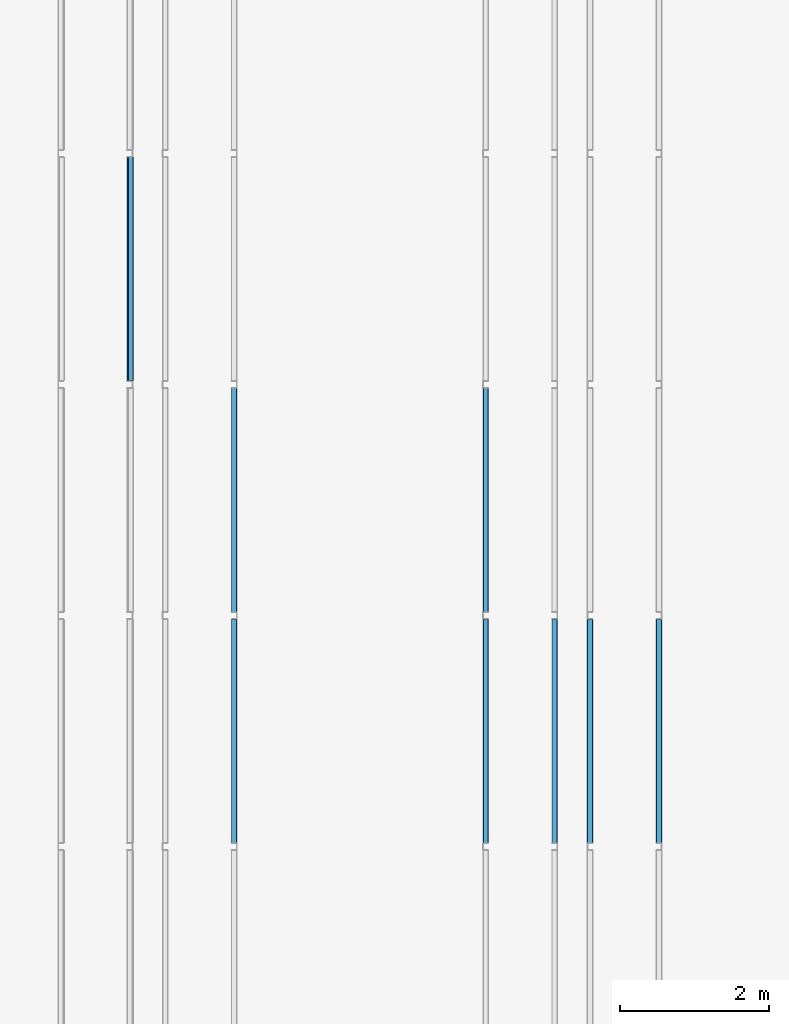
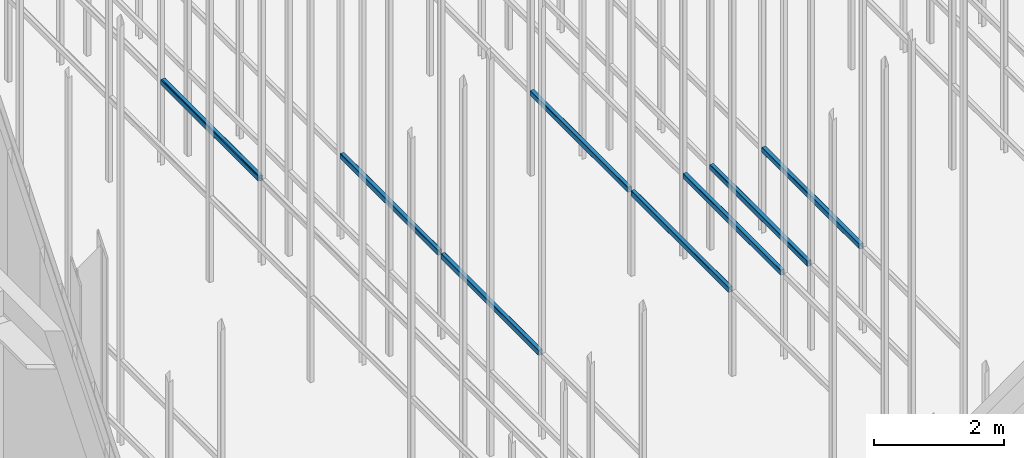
# One storey, part 143 of 302: 9 beams.
"""IFC2X3 building model written with IfcOpenShell, lengths in metres."""

from ifc_helpers import new_model, entity, si_unit, converted_unit, derived_unit, direction, frame, frame_2d, origin, place, context, subcontext, project, spatial, polyline, circle_curve, parameter, trimmed, segment, composite_curve, outline, extrude, material, type_object, element, save


model = new_model("IFC2X3")

# Units and contexts
model_context = context("Model", 3, precision=1e-05, world=origin(), true_north=direction((6.12303176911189e-17, 1.0)))
body_context = subcontext(model_context, "Body", "Model", "MODEL_VIEW")
ifc_project = project(units=[si_unit("LENGTHUNIT", "METRE"), si_unit("AREAUNIT", "SQUARE_METRE"), si_unit("VOLUMEUNIT", "CUBIC_METRE"), converted_unit("PLANEANGLEUNIT", "DEGREE", entity("IfcRatioMeasure", 0.0174532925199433), si_unit("PLANEANGLEUNIT", "RADIAN"), dimensions=[0, 0, 0, 0, 0, 0, 0]), si_unit("MASSUNIT", "GRAM", prefix="KILO"), derived_unit("MASSDENSITYUNIT", [(si_unit("MASSUNIT", "GRAM", prefix="KILO"), 1), (si_unit("LENGTHUNIT", "METRE"), -3)]), derived_unit("MOMENTOFINERTIAUNIT", [(si_unit("LENGTHUNIT", "METRE"), 4)]), si_unit("TIMEUNIT", "SECOND"), si_unit("FREQUENCYUNIT", "HERTZ"), si_unit("THERMODYNAMICTEMPERATUREUNIT", "DEGREE_CELSIUS"), derived_unit("THERMALTRANSMITTANCEUNIT", [(si_unit("MASSUNIT", "GRAM", prefix="KILO"), 1), (si_unit("THERMODYNAMICTEMPERATUREUNIT", "KELVIN"), -1), (si_unit("TIMEUNIT", "SECOND"), -3)]), derived_unit("VOLUMETRICFLOWRATEUNIT", [(si_unit("LENGTHUNIT", "METRE"), 3), (si_unit("TIMEUNIT", "SECOND"), -1)]), si_unit("ELECTRICCURRENTUNIT", "AMPERE"), si_unit("ELECTRICVOLTAGEUNIT", "VOLT"), si_unit("POWERUNIT", "WATT"), si_unit("FORCEUNIT", "NEWTON", prefix="KILO"), si_unit("ILLUMINANCEUNIT", "LUX"), si_unit("LUMINOUSFLUXUNIT", "LUMEN"), si_unit("LUMINOUSINTENSITYUNIT", "CANDELA"), derived_unit("USERDEFINED", [(si_unit("MASSUNIT", "GRAM", prefix="KILO"), -1), (si_unit("LENGTHUNIT", "METRE"), -2), (si_unit("TIMEUNIT", "SECOND"), 3), (si_unit("LUMINOUSFLUXUNIT", "LUMEN"), 1)]), derived_unit("LINEARVELOCITYUNIT", [(si_unit("LENGTHUNIT", "METRE"), 1), (si_unit("TIMEUNIT", "SECOND"), -1)]), si_unit("PRESSUREUNIT", "PASCAL"), derived_unit("USERDEFINED", [(si_unit("LENGTHUNIT", "METRE"), -2), (si_unit("MASSUNIT", "GRAM", prefix="KILO"), 1), (si_unit("TIMEUNIT", "SECOND"), -2)]), derived_unit("LINEARFORCEUNIT", [(si_unit("MASSUNIT", "GRAM", prefix="KILO"), 1), (si_unit("LENGTHUNIT", "METRE"), 1), (si_unit("TIMEUNIT", "SECOND"), -2), (si_unit("LENGTHUNIT", "METRE"), -1)]), derived_unit("PLANARFORCEUNIT", [(si_unit("MASSUNIT", "GRAM", prefix="KILO"), 1), (si_unit("LENGTHUNIT", "METRE"), 1), (si_unit("TIMEUNIT", "SECOND"), -2), (si_unit("LENGTHUNIT", "METRE"), -2)])], contexts=[model_context])

# Site, building, storey
site_placement = place(None, origin())
site = spatial("IfcSite", under=ifc_project, at=site_placement, Name="Default", CompositionType="ELEMENT")
building_placement = place(site_placement, origin())
building = spatial("IfcBuilding", under=site, at=building_placement, CompositionType="ELEMENT")
storey_placement = place(building_placement, frame((0.0, 0.0, -1.3)))
storey = spatial("IfcBuildingStorey", under=building, at=storey_placement, Name="00_EG", CompositionType="ELEMENT", Elevation=-1.3)

# Beams
ifc_material = material(Name="Metall - Baustahl S235 blau")
beam_type = type_object("IfcBeamType", Name="RHS Träger (EN 10219-2):RHS 100 x 75 x 5", PredefinedType="NOTDEFINED")
beam_1_placement = place(storey_placement, frame((-196.415111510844, 30.248088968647, 2.885), z_axis=(0.0, 0.0, 1.0), x_axis=(0.0, 1.0, 0.0)))
element("IfcBeam", 1, at=beam_1_placement, inside=storey, type_object=beam_type, material=ifc_material, Name="RHS Träger (EN 10219-2):RHS 100 x 75 x 5", ObjectType="RHS Träger (EN 10219-2):RHS 100 x 75 x 5", context=body_context, shape_type="SweptSolid", body=[
    extrude(outline(composite_curve([segment(trimmed(circle_curve(frame_2d((-0.0274999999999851, -0.0400000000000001), x_axis=(1.0, 0.0)), 0.01), [parameter(180.0)], [parameter(270.0)], True, "PARAMETER"), True, "CONTINUOUS"), segment(polyline([(-0.0274999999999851, -0.05), (0.0274999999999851, -0.05)]), True, "CONTINUOUS"), segment(trimmed(circle_curve(frame_2d((0.0274999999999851, -0.0400000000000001), x_axis=(1.0, 0.0)), 0.01), [parameter(270.0)], [parameter(5.08888749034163e-14)], True, "PARAMETER"), True, "CONTINUOUS"), segment(polyline([(0.0375000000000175, -0.0399999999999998), (0.0375000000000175, 0.0400000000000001)]), True, "CONTINUOUS"), segment(trimmed(circle_curve(frame_2d((0.0274999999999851, 0.0399999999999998), x_axis=(1.0, 0.0)), 0.01), [parameter(360.0)], [parameter(89.9999999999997)], True, "PARAMETER"), True, "CONTINUOUS"), segment(polyline([(0.0274999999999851, 0.05), (-0.0274999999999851, 0.05)]), True, "CONTINUOUS"), segment(trimmed(circle_curve(frame_2d((-0.0274999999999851, 0.0399999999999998), x_axis=(1.0, 0.0)), 0.01), [parameter(90.0000000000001)], [parameter(180.0)], True, "PARAMETER"), True, "CONTINUOUS"), segment(polyline([(-0.0374999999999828, 0.0400000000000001), (-0.0374999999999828, -0.0399999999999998)]), True, "CONTINUOUS")], self_intersect=False), holes=[composite_curve([segment(polyline([(0.0274999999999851, -0.0450000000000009), (-0.0274999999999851, -0.0450000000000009)]), True, "CONTINUOUS"), segment(trimmed(circle_curve(frame_2d((-0.0274999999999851, -0.0400000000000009), x_axis=(1.0, 0.0)), 0.005), [parameter(180.0)], [parameter(270.0)], True, "PARAMETER"), False, "CONTINUOUS"), segment(polyline([(-0.0325000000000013, -0.0400000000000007), (-0.0325000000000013, 0.0399999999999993)]), True, "CONTINUOUS"), segment(trimmed(circle_curve(frame_2d((-0.0274999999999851, 0.039999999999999), x_axis=(1.0, 0.0)), 0.005), [parameter(90.0000000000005)], [parameter(180.0)], True, "PARAMETER"), False, "CONTINUOUS"), segment(polyline([(-0.0274999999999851, 0.0449999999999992), (0.0274999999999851, 0.0449999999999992)]), True, "CONTINUOUS"), segment(trimmed(circle_curve(frame_2d((0.0274999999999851, 0.039999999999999), x_axis=(1.0, 0.0)), 0.005), [parameter(0.0)], [parameter(90.0000000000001)], True, "PARAMETER"), False, "CONTINUOUS"), segment(polyline([(0.0325000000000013, 0.0399999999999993), (0.0325000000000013, -0.0400000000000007)]), True, "CONTINUOUS"), segment(trimmed(circle_curve(frame_2d((0.0274999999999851, -0.0400000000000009), x_axis=(1.0, 0.0)), 0.005), [parameter(270.0)], [parameter(4.07110999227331e-13)], True, "PARAMETER"), False, "CONTINUOUS")], self_intersect=False)]), frame((9.99999999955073e-05, 0.0375000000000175, -0.0500000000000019), z_axis=(1.0, 0.0, 0.0), x_axis=(0.0, -1.0, 0.0)), (0.0, 0.0, 1.0), 2.9998),
])
beam_2_placement = place(storey_placement, frame((-195.565111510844, 30.248088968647, 2.885), z_axis=(0.0, 0.0, 1.0), x_axis=(0.0, 1.0, 0.0)))
element("IfcBeam", 2, at=beam_2_placement, inside=storey, type_object=beam_type, material=ifc_material, Name="RHS Träger (EN 10219-2):RHS 100 x 75 x 5", ObjectType="RHS Träger (EN 10219-2):RHS 100 x 75 x 5", context=body_context, shape_type="SweptSolid", body=[
    extrude(outline(composite_curve([segment(polyline([(-0.0399999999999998, -0.0374999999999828), (0.0400000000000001, -0.0374999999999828)]), True, "CONTINUOUS"), segment(trimmed(circle_curve(frame_2d((0.0399999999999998, -0.0274999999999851), x_axis=(0.0, 1.0)), 0.01), [parameter(180.0)], [parameter(270.0)], True, "PARAMETER"), True, "CONTINUOUS"), segment(polyline([(0.05, -0.0274999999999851), (0.05, 0.0274999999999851)]), True, "CONTINUOUS"), segment(trimmed(circle_curve(frame_2d((0.0399999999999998, 0.0274999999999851), x_axis=(0.0, 1.0)), 0.01), [parameter(270.0)], [parameter(4.07110999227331e-13)], True, "PARAMETER"), True, "CONTINUOUS"), segment(polyline([(0.0400000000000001, 0.0375000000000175), (-0.0399999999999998, 0.0375000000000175)]), True, "CONTINUOUS"), segment(trimmed(circle_curve(frame_2d((-0.0400000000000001, 0.0274999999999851), x_axis=(0.0, 1.0)), 0.01), [parameter(360.0)], [parameter(90.0000000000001)], True, "PARAMETER"), True, "CONTINUOUS"), segment(polyline([(-0.05, 0.0274999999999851), (-0.05, -0.0274999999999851)]), True, "CONTINUOUS"), segment(trimmed(circle_curve(frame_2d((-0.0400000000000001, -0.0274999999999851), x_axis=(0.0, 1.0)), 0.01), [parameter(90.0000000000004)], [parameter(180.0)], True, "PARAMETER"), True, "CONTINUOUS")], self_intersect=False), holes=[composite_curve([segment(trimmed(circle_curve(frame_2d((-0.0400000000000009, 0.0274999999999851), x_axis=(0.0, 1.0)), 0.005), [parameter(360.0)], [parameter(89.9999999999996)], True, "PARAMETER"), False, "CONTINUOUS"), segment(polyline([(-0.0400000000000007, 0.0325000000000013), (0.0399999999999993, 0.0325000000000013)]), True, "CONTINUOUS"), segment(trimmed(circle_curve(frame_2d((0.039999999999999, 0.0274999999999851), x_axis=(0.0, 1.0)), 0.005), [parameter(270.0)], [parameter(0.0)], True, "PARAMETER"), False, "CONTINUOUS"), segment(polyline([(0.0449999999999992, 0.0274999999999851), (0.0449999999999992, -0.0274999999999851)]), True, "CONTINUOUS"), segment(trimmed(circle_curve(frame_2d((0.039999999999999, -0.0274999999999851), x_axis=(0.0, 1.0)), 0.005), [parameter(180.0)], [parameter(269.999999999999)], True, "PARAMETER"), False, "CONTINUOUS"), segment(polyline([(0.0399999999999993, -0.0325000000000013), (-0.0400000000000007, -0.0325000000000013)]), True, "CONTINUOUS"), segment(trimmed(circle_curve(frame_2d((-0.0400000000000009, -0.0274999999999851), x_axis=(0.0, 1.0)), 0.005), [parameter(90.0000000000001)], [parameter(180.0)], True, "PARAMETER"), False, "CONTINUOUS"), segment(polyline([(-0.0450000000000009, -0.0274999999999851), (-0.0450000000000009, 0.0274999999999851)]), True, "CONTINUOUS")], self_intersect=False)]), frame((9.99999999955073e-05, -0.0375000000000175, -0.0500000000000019), z_axis=(1.0, 0.0, 0.0), x_axis=(0.0, 0.0, -1.0)), (0.0, 0.0, 1.0), 2.9998),
])
beam_3_placement = place(storey_placement, frame((-195.015111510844, 30.248088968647, 2.885), z_axis=(0.0, 0.0, 1.0), x_axis=(0.0, 1.0, 0.0)))
element("IfcBeam", 3, at=beam_3_placement, inside=storey, type_object=beam_type, material=ifc_material, Name="RHS Träger (EN 10219-2):RHS 100 x 75 x 5", ObjectType="RHS Träger (EN 10219-2):RHS 100 x 75 x 5", context=body_context, shape_type="SweptSolid", body=[
    extrude(outline(composite_curve([segment(trimmed(circle_curve(frame_2d((-0.0275000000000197, -0.0400000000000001), x_axis=(1.0, 0.0)), 0.01), [parameter(180.0)], [parameter(270.0)], True, "PARAMETER"), True, "CONTINUOUS"), segment(polyline([(-0.0275000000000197, -0.05), (0.0274999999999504, -0.05)]), True, "CONTINUOUS"), segment(trimmed(circle_curve(frame_2d((0.0274999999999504, -0.0400000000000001), x_axis=(1.0, 0.0)), 0.01), [parameter(270.0)], [parameter(5.08888749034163e-14)], True, "PARAMETER"), True, "CONTINUOUS"), segment(polyline([(0.0374999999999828, -0.0399999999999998), (0.0374999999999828, 0.0400000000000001)]), True, "CONTINUOUS"), segment(trimmed(circle_curve(frame_2d((0.0274999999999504, 0.0399999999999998), x_axis=(1.0, 0.0)), 0.01), [parameter(360.0)], [parameter(89.9999999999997)], True, "PARAMETER"), True, "CONTINUOUS"), segment(polyline([(0.0274999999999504, 0.05), (-0.0275000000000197, 0.05)]), True, "CONTINUOUS"), segment(trimmed(circle_curve(frame_2d((-0.0275000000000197, 0.0399999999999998), x_axis=(1.0, 0.0)), 0.01), [parameter(90.0000000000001)], [parameter(180.0)], True, "PARAMETER"), True, "CONTINUOUS"), segment(polyline([(-0.0375000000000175, 0.0400000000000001), (-0.0375000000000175, -0.0399999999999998)]), True, "CONTINUOUS")], self_intersect=False), holes=[composite_curve([segment(polyline([(0.0274999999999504, -0.0450000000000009), (-0.0275000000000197, -0.0450000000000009)]), True, "CONTINUOUS"), segment(trimmed(circle_curve(frame_2d((-0.0275000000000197, -0.0400000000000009), x_axis=(1.0, 0.0)), 0.005), [parameter(180.0)], [parameter(270.0)], True, "PARAMETER"), False, "CONTINUOUS"), segment(polyline([(-0.0325000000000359, -0.0400000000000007), (-0.0325000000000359, 0.0399999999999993)]), True, "CONTINUOUS"), segment(trimmed(circle_curve(frame_2d((-0.0275000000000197, 0.039999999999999), x_axis=(1.0, 0.0)), 0.005), [parameter(90.0000000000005)], [parameter(180.0)], True, "PARAMETER"), False, "CONTINUOUS"), segment(polyline([(-0.0275000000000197, 0.0449999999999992), (0.0274999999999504, 0.0449999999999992)]), True, "CONTINUOUS"), segment(trimmed(circle_curve(frame_2d((0.0274999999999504, 0.039999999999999), x_axis=(1.0, 0.0)), 0.005), [parameter(0.0)], [parameter(90.0000000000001)], True, "PARAMETER"), False, "CONTINUOUS"), segment(polyline([(0.0324999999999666, 0.0399999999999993), (0.0324999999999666, -0.0400000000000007)]), True, "CONTINUOUS"), segment(trimmed(circle_curve(frame_2d((0.0274999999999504, -0.0400000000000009), x_axis=(1.0, 0.0)), 0.005), [parameter(270.0)], [parameter(4.07110999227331e-13)], True, "PARAMETER"), False, "CONTINUOUS")], self_intersect=False)]), frame((9.99999999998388e-05, 0.0374999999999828, -0.0500000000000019), z_axis=(1.0, 0.0, 0.0), x_axis=(0.0, -1.0, 0.0)), (0.0, 0.0, 1.0), 2.9998),
])
beam_4_placement = place(storey_placement, frame((-194.165111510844, 30.248088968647, 2.885), z_axis=(0.0, 0.0, 1.0), x_axis=(0.0, 1.0, 0.0)))
element("IfcBeam", 4, at=beam_4_placement, inside=storey, type_object=beam_type, material=ifc_material, Name="RHS Träger (EN 10219-2):RHS 100 x 75 x 5", ObjectType="RHS Träger (EN 10219-2):RHS 100 x 75 x 5", context=body_context, shape_type="SweptSolid", body=[
    extrude(outline(composite_curve([segment(polyline([(-0.0399999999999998, -0.0374999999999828), (0.0400000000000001, -0.0374999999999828)]), True, "CONTINUOUS"), segment(trimmed(circle_curve(frame_2d((0.0399999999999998, -0.0274999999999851), x_axis=(0.0, 1.0)), 0.01), [parameter(180.0)], [parameter(270.0)], True, "PARAMETER"), True, "CONTINUOUS"), segment(polyline([(0.05, -0.0274999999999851), (0.05, 0.0274999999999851)]), True, "CONTINUOUS"), segment(trimmed(circle_curve(frame_2d((0.0399999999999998, 0.0274999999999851), x_axis=(0.0, 1.0)), 0.01), [parameter(270.0)], [parameter(4.07110999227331e-13)], True, "PARAMETER"), True, "CONTINUOUS"), segment(polyline([(0.0400000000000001, 0.0375000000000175), (-0.0399999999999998, 0.0375000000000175)]), True, "CONTINUOUS"), segment(trimmed(circle_curve(frame_2d((-0.0400000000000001, 0.0274999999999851), x_axis=(0.0, 1.0)), 0.01), [parameter(360.0)], [parameter(90.0000000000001)], True, "PARAMETER"), True, "CONTINUOUS"), segment(polyline([(-0.05, 0.0274999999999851), (-0.05, -0.0274999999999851)]), True, "CONTINUOUS"), segment(trimmed(circle_curve(frame_2d((-0.0400000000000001, -0.0274999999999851), x_axis=(0.0, 1.0)), 0.01), [parameter(90.0000000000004)], [parameter(180.0)], True, "PARAMETER"), True, "CONTINUOUS")], self_intersect=False), holes=[composite_curve([segment(trimmed(circle_curve(frame_2d((-0.0400000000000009, 0.0274999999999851), x_axis=(0.0, 1.0)), 0.005), [parameter(360.0)], [parameter(89.9999999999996)], True, "PARAMETER"), False, "CONTINUOUS"), segment(polyline([(-0.0400000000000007, 0.0325000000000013), (0.0399999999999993, 0.0325000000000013)]), True, "CONTINUOUS"), segment(trimmed(circle_curve(frame_2d((0.039999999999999, 0.0274999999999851), x_axis=(0.0, 1.0)), 0.005), [parameter(270.0)], [parameter(0.0)], True, "PARAMETER"), False, "CONTINUOUS"), segment(polyline([(0.0449999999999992, 0.0274999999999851), (0.0449999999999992, -0.0274999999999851)]), True, "CONTINUOUS"), segment(trimmed(circle_curve(frame_2d((0.039999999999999, -0.0274999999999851), x_axis=(0.0, 1.0)), 0.005), [parameter(180.0)], [parameter(269.999999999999)], True, "PARAMETER"), False, "CONTINUOUS"), segment(polyline([(0.0399999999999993, -0.0325000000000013), (-0.0400000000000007, -0.0325000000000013)]), True, "CONTINUOUS"), segment(trimmed(circle_curve(frame_2d((-0.0400000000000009, -0.0274999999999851), x_axis=(0.0, 1.0)), 0.005), [parameter(90.0000000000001)], [parameter(180.0)], True, "PARAMETER"), False, "CONTINUOUS"), segment(polyline([(-0.0450000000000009, -0.0274999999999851), (-0.0450000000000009, 0.0274999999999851)]), True, "CONTINUOUS")], self_intersect=False)]), frame((9.99999999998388e-05, -0.0375000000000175, -0.0500000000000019), z_axis=(1.0, 0.0, 0.0), x_axis=(0.0, 0.0, -1.0)), (0.0, 0.0, 1.0), 2.9998),
])
beam_5_placement = place(storey_placement, frame((-199.865111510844, 30.248088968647, 2.885), z_axis=(0.0, 0.0, 1.0), x_axis=(0.0, 1.0, 0.0)))
element("IfcBeam", 5, at=beam_5_placement, inside=storey, type_object=beam_type, material=ifc_material, Name="RHS Träger (EN 10219-2):RHS 100 x 75 x 5", ObjectType="RHS Träger (EN 10219-2):RHS 100 x 75 x 5", context=body_context, shape_type="SweptSolid", body=[
    extrude(outline(composite_curve([segment(polyline([(-0.0399999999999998, -0.0374999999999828), (0.0400000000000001, -0.0374999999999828)]), True, "CONTINUOUS"), segment(trimmed(circle_curve(frame_2d((0.0399999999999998, -0.0274999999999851), x_axis=(0.0, 1.0)), 0.01), [parameter(180.0)], [parameter(270.0)], True, "PARAMETER"), True, "CONTINUOUS"), segment(polyline([(0.05, -0.0274999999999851), (0.05, 0.0274999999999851)]), True, "CONTINUOUS"), segment(trimmed(circle_curve(frame_2d((0.0399999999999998, 0.0274999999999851), x_axis=(0.0, 1.0)), 0.01), [parameter(270.0)], [parameter(4.07110999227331e-13)], True, "PARAMETER"), True, "CONTINUOUS"), segment(polyline([(0.0400000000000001, 0.0375000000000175), (-0.0399999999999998, 0.0375000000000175)]), True, "CONTINUOUS"), segment(trimmed(circle_curve(frame_2d((-0.0400000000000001, 0.0274999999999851), x_axis=(0.0, 1.0)), 0.01), [parameter(360.0)], [parameter(90.0000000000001)], True, "PARAMETER"), True, "CONTINUOUS"), segment(polyline([(-0.05, 0.0274999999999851), (-0.05, -0.0274999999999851)]), True, "CONTINUOUS"), segment(trimmed(circle_curve(frame_2d((-0.0400000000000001, -0.0274999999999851), x_axis=(0.0, 1.0)), 0.01), [parameter(90.0000000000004)], [parameter(180.0)], True, "PARAMETER"), True, "CONTINUOUS")], self_intersect=False), holes=[composite_curve([segment(trimmed(circle_curve(frame_2d((-0.0400000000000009, 0.0274999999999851), x_axis=(0.0, 1.0)), 0.005), [parameter(360.0)], [parameter(89.9999999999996)], True, "PARAMETER"), False, "CONTINUOUS"), segment(polyline([(-0.0400000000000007, 0.0325000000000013), (0.0399999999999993, 0.0325000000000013)]), True, "CONTINUOUS"), segment(trimmed(circle_curve(frame_2d((0.039999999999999, 0.0274999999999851), x_axis=(0.0, 1.0)), 0.005), [parameter(270.0)], [parameter(0.0)], True, "PARAMETER"), False, "CONTINUOUS"), segment(polyline([(0.0449999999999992, 0.0274999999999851), (0.0449999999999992, -0.0274999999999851)]), True, "CONTINUOUS"), segment(trimmed(circle_curve(frame_2d((0.039999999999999, -0.0274999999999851), x_axis=(0.0, 1.0)), 0.005), [parameter(180.0)], [parameter(269.999999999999)], True, "PARAMETER"), False, "CONTINUOUS"), segment(polyline([(0.0399999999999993, -0.0325000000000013), (-0.0400000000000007, -0.0325000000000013)]), True, "CONTINUOUS"), segment(trimmed(circle_curve(frame_2d((-0.0400000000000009, -0.0274999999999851), x_axis=(0.0, 1.0)), 0.005), [parameter(90.0000000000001)], [parameter(180.0)], True, "PARAMETER"), False, "CONTINUOUS"), segment(polyline([(-0.0450000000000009, -0.0274999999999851), (-0.0450000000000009, 0.0274999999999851)]), True, "CONTINUOUS")], self_intersect=False)]), frame((0.00010000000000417, -0.0375000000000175, -0.0500000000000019), z_axis=(1.0, 0.0, 0.0), x_axis=(0.0, 0.0, -1.0)), (0.0, 0.0, 1.0), 2.9998),
])
beam_6_placement = place(storey_placement, frame((-196.415111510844, 33.348088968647, 2.885), z_axis=(0.0, 0.0, 1.0), x_axis=(0.0, 1.0, 0.0)))
element("IfcBeam", 6, at=beam_6_placement, inside=storey, type_object=beam_type, material=ifc_material, Name="RHS Träger (EN 10219-2):RHS 100 x 75 x 5", ObjectType="RHS Träger (EN 10219-2):RHS 100 x 75 x 5", context=body_context, shape_type="SweptSolid", body=[
    extrude(outline(composite_curve([segment(trimmed(circle_curve(frame_2d((-0.0274999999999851, -0.0400000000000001), x_axis=(1.0, 0.0)), 0.01), [parameter(180.0)], [parameter(270.0)], True, "PARAMETER"), True, "CONTINUOUS"), segment(polyline([(-0.0274999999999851, -0.05), (0.0274999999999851, -0.05)]), True, "CONTINUOUS"), segment(trimmed(circle_curve(frame_2d((0.0274999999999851, -0.0400000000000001), x_axis=(1.0, 0.0)), 0.01), [parameter(270.0)], [parameter(5.08888749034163e-14)], True, "PARAMETER"), True, "CONTINUOUS"), segment(polyline([(0.0375000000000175, -0.0399999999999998), (0.0375000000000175, 0.0400000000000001)]), True, "CONTINUOUS"), segment(trimmed(circle_curve(frame_2d((0.0274999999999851, 0.0399999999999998), x_axis=(1.0, 0.0)), 0.01), [parameter(360.0)], [parameter(89.9999999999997)], True, "PARAMETER"), True, "CONTINUOUS"), segment(polyline([(0.0274999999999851, 0.05), (-0.0274999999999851, 0.05)]), True, "CONTINUOUS"), segment(trimmed(circle_curve(frame_2d((-0.0274999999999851, 0.0399999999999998), x_axis=(1.0, 0.0)), 0.01), [parameter(90.0000000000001)], [parameter(180.0)], True, "PARAMETER"), True, "CONTINUOUS"), segment(polyline([(-0.0374999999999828, 0.0400000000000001), (-0.0374999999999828, -0.0399999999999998)]), True, "CONTINUOUS")], self_intersect=False), holes=[composite_curve([segment(polyline([(0.0274999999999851, -0.0450000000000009), (-0.0274999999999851, -0.0450000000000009)]), True, "CONTINUOUS"), segment(trimmed(circle_curve(frame_2d((-0.0274999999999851, -0.0400000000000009), x_axis=(1.0, 0.0)), 0.005), [parameter(180.0)], [parameter(270.0)], True, "PARAMETER"), False, "CONTINUOUS"), segment(polyline([(-0.0325000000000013, -0.0400000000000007), (-0.0325000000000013, 0.0399999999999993)]), True, "CONTINUOUS"), segment(trimmed(circle_curve(frame_2d((-0.0274999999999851, 0.039999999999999), x_axis=(1.0, 0.0)), 0.005), [parameter(90.0000000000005)], [parameter(180.0)], True, "PARAMETER"), False, "CONTINUOUS"), segment(polyline([(-0.0274999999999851, 0.0449999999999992), (0.0274999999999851, 0.0449999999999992)]), True, "CONTINUOUS"), segment(trimmed(circle_curve(frame_2d((0.0274999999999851, 0.039999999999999), x_axis=(1.0, 0.0)), 0.005), [parameter(0.0)], [parameter(90.0000000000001)], True, "PARAMETER"), False, "CONTINUOUS"), segment(polyline([(0.0325000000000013, 0.0399999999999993), (0.0325000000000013, -0.0400000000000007)]), True, "CONTINUOUS"), segment(trimmed(circle_curve(frame_2d((0.0274999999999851, -0.0400000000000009), x_axis=(1.0, 0.0)), 0.005), [parameter(270.0)], [parameter(4.07110999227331e-13)], True, "PARAMETER"), False, "CONTINUOUS")], self_intersect=False)]), frame((0.000100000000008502, 0.0375000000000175, -0.0500000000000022), z_axis=(1.0, 0.0, 0.0), x_axis=(0.0, -1.0, 0.0)), (0.0, 0.0, 1.0), 2.9998),
])
beam_7_placement = place(storey_placement, frame((-199.865111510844, 33.348088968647, 2.885), z_axis=(0.0, 0.0, 1.0), x_axis=(0.0, 1.0, 0.0)))
element("IfcBeam", 7, at=beam_7_placement, inside=storey, type_object=beam_type, material=ifc_material, Name="RHS Träger (EN 10219-2):RHS 100 x 75 x 5", ObjectType="RHS Träger (EN 10219-2):RHS 100 x 75 x 5", context=body_context, shape_type="SweptSolid", body=[
    extrude(outline(composite_curve([segment(polyline([(-0.0399999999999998, -0.0374999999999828), (0.0400000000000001, -0.0374999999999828)]), True, "CONTINUOUS"), segment(trimmed(circle_curve(frame_2d((0.0399999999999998, -0.0274999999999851), x_axis=(0.0, 1.0)), 0.01), [parameter(180.0)], [parameter(270.0)], True, "PARAMETER"), True, "CONTINUOUS"), segment(polyline([(0.05, -0.0274999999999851), (0.05, 0.0274999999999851)]), True, "CONTINUOUS"), segment(trimmed(circle_curve(frame_2d((0.0399999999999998, 0.0274999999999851), x_axis=(0.0, 1.0)), 0.01), [parameter(270.0)], [parameter(4.07110999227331e-13)], True, "PARAMETER"), True, "CONTINUOUS"), segment(polyline([(0.0400000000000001, 0.0375000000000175), (-0.0399999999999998, 0.0375000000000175)]), True, "CONTINUOUS"), segment(trimmed(circle_curve(frame_2d((-0.0400000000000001, 0.0274999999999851), x_axis=(0.0, 1.0)), 0.01), [parameter(360.0)], [parameter(90.0000000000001)], True, "PARAMETER"), True, "CONTINUOUS"), segment(polyline([(-0.05, 0.0274999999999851), (-0.05, -0.0274999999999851)]), True, "CONTINUOUS"), segment(trimmed(circle_curve(frame_2d((-0.0400000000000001, -0.0274999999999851), x_axis=(0.0, 1.0)), 0.01), [parameter(90.0000000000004)], [parameter(180.0)], True, "PARAMETER"), True, "CONTINUOUS")], self_intersect=False), holes=[composite_curve([segment(trimmed(circle_curve(frame_2d((-0.0400000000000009, 0.0274999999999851), x_axis=(0.0, 1.0)), 0.005), [parameter(360.0)], [parameter(89.9999999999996)], True, "PARAMETER"), False, "CONTINUOUS"), segment(polyline([(-0.0400000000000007, 0.0325000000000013), (0.0399999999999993, 0.0325000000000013)]), True, "CONTINUOUS"), segment(trimmed(circle_curve(frame_2d((0.039999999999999, 0.0274999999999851), x_axis=(0.0, 1.0)), 0.005), [parameter(270.0)], [parameter(0.0)], True, "PARAMETER"), False, "CONTINUOUS"), segment(polyline([(0.0449999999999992, 0.0274999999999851), (0.0449999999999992, -0.0274999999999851)]), True, "CONTINUOUS"), segment(trimmed(circle_curve(frame_2d((0.039999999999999, -0.0274999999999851), x_axis=(0.0, 1.0)), 0.005), [parameter(180.0)], [parameter(269.999999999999)], True, "PARAMETER"), False, "CONTINUOUS"), segment(polyline([(0.0399999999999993, -0.0325000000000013), (-0.0400000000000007, -0.0325000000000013)]), True, "CONTINUOUS"), segment(trimmed(circle_curve(frame_2d((-0.0400000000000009, -0.0274999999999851), x_axis=(0.0, 1.0)), 0.005), [parameter(90.0000000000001)], [parameter(180.0)], True, "PARAMETER"), False, "CONTINUOUS"), segment(polyline([(-0.0450000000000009, -0.0274999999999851), (-0.0450000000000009, 0.0274999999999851)]), True, "CONTINUOUS")], self_intersect=False)]), frame((9.99999999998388e-05, -0.0375000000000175, -0.0500000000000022), z_axis=(1.0, 0.0, 0.0), x_axis=(0.0, 0.0, -1.0)), (0.0, 0.0, 1.0), 2.9998),
])
beam_8_placement = place(storey_placement, frame((-201.255111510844, 36.448088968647, 2.885), z_axis=(0.0, 0.0, 1.0), x_axis=(0.0, 1.0, 0.0)))
element("IfcBeam", 8, at=beam_8_placement, inside=storey, type_object=beam_type, material=ifc_material, Name="RHS Träger (EN 10219-2):RHS 100 x 75 x 5", ObjectType="RHS Träger (EN 10219-2):RHS 100 x 75 x 5", context=body_context, shape_type="SweptSolid", body=[
    extrude(outline(composite_curve([segment(polyline([(-0.0399999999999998, -0.0374999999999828), (0.0400000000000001, -0.0374999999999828)]), True, "CONTINUOUS"), segment(trimmed(circle_curve(frame_2d((0.0399999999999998, -0.0274999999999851), x_axis=(0.0, 1.0)), 0.01), [parameter(180.0)], [parameter(270.0)], True, "PARAMETER"), True, "CONTINUOUS"), segment(polyline([(0.05, -0.0274999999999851), (0.05, 0.0274999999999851)]), True, "CONTINUOUS"), segment(trimmed(circle_curve(frame_2d((0.0399999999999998, 0.0274999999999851), x_axis=(0.0, 1.0)), 0.01), [parameter(270.0)], [parameter(4.07110999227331e-13)], True, "PARAMETER"), True, "CONTINUOUS"), segment(polyline([(0.0400000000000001, 0.0375000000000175), (-0.0399999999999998, 0.0375000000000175)]), True, "CONTINUOUS"), segment(trimmed(circle_curve(frame_2d((-0.0400000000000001, 0.0274999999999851), x_axis=(0.0, 1.0)), 0.01), [parameter(360.0)], [parameter(90.0000000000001)], True, "PARAMETER"), True, "CONTINUOUS"), segment(polyline([(-0.05, 0.0274999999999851), (-0.05, -0.0274999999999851)]), True, "CONTINUOUS"), segment(trimmed(circle_curve(frame_2d((-0.0400000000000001, -0.0274999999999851), x_axis=(0.0, 1.0)), 0.01), [parameter(90.0000000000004)], [parameter(180.0)], True, "PARAMETER"), True, "CONTINUOUS")], self_intersect=False), holes=[composite_curve([segment(trimmed(circle_curve(frame_2d((-0.0400000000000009, 0.0274999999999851), x_axis=(0.0, 1.0)), 0.005), [parameter(360.0)], [parameter(89.9999999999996)], True, "PARAMETER"), False, "CONTINUOUS"), segment(polyline([(-0.0400000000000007, 0.0325000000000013), (0.0399999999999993, 0.0325000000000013)]), True, "CONTINUOUS"), segment(trimmed(circle_curve(frame_2d((0.039999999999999, 0.0274999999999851), x_axis=(0.0, 1.0)), 0.005), [parameter(270.0)], [parameter(0.0)], True, "PARAMETER"), False, "CONTINUOUS"), segment(polyline([(0.0449999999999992, 0.0274999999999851), (0.0449999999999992, -0.0274999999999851)]), True, "CONTINUOUS"), segment(trimmed(circle_curve(frame_2d((0.039999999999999, -0.0274999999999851), x_axis=(0.0, 1.0)), 0.005), [parameter(180.0)], [parameter(269.999999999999)], True, "PARAMETER"), False, "CONTINUOUS"), segment(polyline([(0.0399999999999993, -0.0325000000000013), (-0.0400000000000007, -0.0325000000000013)]), True, "CONTINUOUS"), segment(trimmed(circle_curve(frame_2d((-0.0400000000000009, -0.0274999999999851), x_axis=(0.0, 1.0)), 0.005), [parameter(90.0000000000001)], [parameter(180.0)], True, "PARAMETER"), False, "CONTINUOUS"), segment(polyline([(-0.0450000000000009, -0.0274999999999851), (-0.0450000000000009, 0.0274999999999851)]), True, "CONTINUOUS")], self_intersect=False)]), frame((9.99999999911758e-05, -0.0375000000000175, -0.0500000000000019), z_axis=(1.0, 0.0, 0.0), x_axis=(0.0, 0.0, -1.0)), (0.0, 0.0, 1.0), 2.9998),
])
beam_9_placement = place(storey_placement, frame((-201.265111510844, 36.448088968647, 2.885), z_axis=(0.0, 0.0, 1.0), x_axis=(0.0, 1.0, 0.0)))
element("IfcBeam", 9, at=beam_9_placement, inside=storey, type_object=beam_type, material=ifc_material, Name="RHS Träger (EN 10219-2):RHS 100 x 75 x 5", ObjectType="RHS Träger (EN 10219-2):RHS 100 x 75 x 5", context=body_context, shape_type="SweptSolid", body=[
    extrude(outline(composite_curve([segment(polyline([(-0.0399999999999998, -0.0374999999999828), (0.0400000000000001, -0.0374999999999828)]), True, "CONTINUOUS"), segment(trimmed(circle_curve(frame_2d((0.0399999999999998, -0.0274999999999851), x_axis=(0.0, 1.0)), 0.01), [parameter(180.0)], [parameter(270.0)], True, "PARAMETER"), True, "CONTINUOUS"), segment(polyline([(0.05, -0.0274999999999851), (0.05, 0.0274999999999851)]), True, "CONTINUOUS"), segment(trimmed(circle_curve(frame_2d((0.0399999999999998, 0.0274999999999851), x_axis=(0.0, 1.0)), 0.01), [parameter(270.0)], [parameter(4.07110999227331e-13)], True, "PARAMETER"), True, "CONTINUOUS"), segment(polyline([(0.0400000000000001, 0.0375000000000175), (-0.0399999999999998, 0.0375000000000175)]), True, "CONTINUOUS"), segment(trimmed(circle_curve(frame_2d((-0.0400000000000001, 0.0274999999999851), x_axis=(0.0, 1.0)), 0.01), [parameter(360.0)], [parameter(90.0000000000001)], True, "PARAMETER"), True, "CONTINUOUS"), segment(polyline([(-0.05, 0.0274999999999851), (-0.05, -0.0274999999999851)]), True, "CONTINUOUS"), segment(trimmed(circle_curve(frame_2d((-0.0400000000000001, -0.0274999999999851), x_axis=(0.0, 1.0)), 0.01), [parameter(90.0000000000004)], [parameter(180.0)], True, "PARAMETER"), True, "CONTINUOUS")], self_intersect=False), holes=[composite_curve([segment(trimmed(circle_curve(frame_2d((-0.0400000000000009, 0.0274999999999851), x_axis=(0.0, 1.0)), 0.005), [parameter(360.0)], [parameter(89.9999999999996)], True, "PARAMETER"), False, "CONTINUOUS"), segment(polyline([(-0.0400000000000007, 0.0325000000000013), (0.0399999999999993, 0.0325000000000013)]), True, "CONTINUOUS"), segment(trimmed(circle_curve(frame_2d((0.039999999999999, 0.0274999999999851), x_axis=(0.0, 1.0)), 0.005), [parameter(270.0)], [parameter(0.0)], True, "PARAMETER"), False, "CONTINUOUS"), segment(polyline([(0.0449999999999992, 0.0274999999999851), (0.0449999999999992, -0.0274999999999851)]), True, "CONTINUOUS"), segment(trimmed(circle_curve(frame_2d((0.039999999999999, -0.0274999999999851), x_axis=(0.0, 1.0)), 0.005), [parameter(180.0)], [parameter(269.999999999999)], True, "PARAMETER"), False, "CONTINUOUS"), segment(polyline([(0.0399999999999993, -0.0325000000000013), (-0.0400000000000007, -0.0325000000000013)]), True, "CONTINUOUS"), segment(trimmed(circle_curve(frame_2d((-0.0400000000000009, -0.0274999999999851), x_axis=(0.0, 1.0)), 0.005), [parameter(90.0000000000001)], [parameter(180.0)], True, "PARAMETER"), False, "CONTINUOUS"), segment(polyline([(-0.0450000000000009, -0.0274999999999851), (-0.0450000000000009, 0.0274999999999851)]), True, "CONTINUOUS")], self_intersect=False)]), frame((9.99999999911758e-05, -0.0375000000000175, -0.0500000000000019), z_axis=(1.0, 0.0, 0.0), x_axis=(0.0, 0.0, -1.0)), (0.0, 0.0, 1.0), 2.9998),
])

save(model, "model.ifc")
